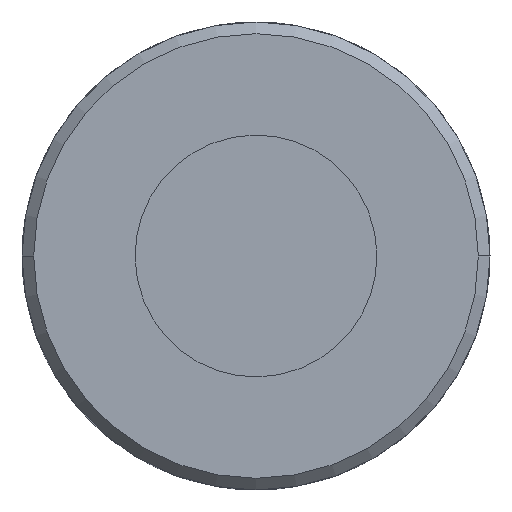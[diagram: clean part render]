
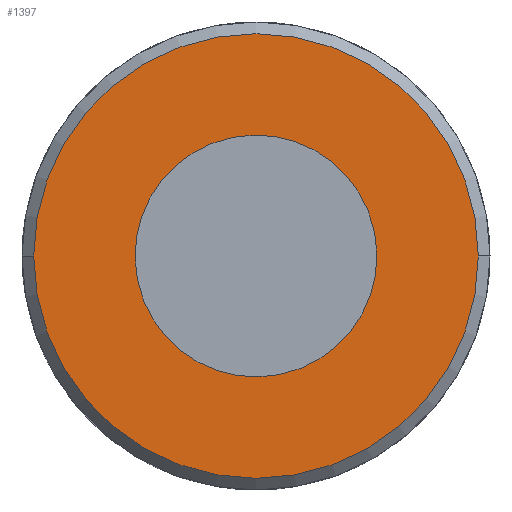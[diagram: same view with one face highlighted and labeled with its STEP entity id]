
A CAD part, left-side view. The second image highlights one B-rep face of the part: STEP entity #1397.
In plain terms, the highlighted planar face has unit normal (-1, 0, 0).
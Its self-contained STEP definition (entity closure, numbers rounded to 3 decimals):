
#63=AXIS2_PLACEMENT_3D('Circle Axis2P3D',#61,#62,$) ;
#97=AXIS2_PLACEMENT_3D('Circle Axis2P3D',#95,#96,$) ;
#1373=AXIS2_PLACEMENT_3D('Plane Axis2P3D',#1370,#1371,#1372) ;
#1377=AXIS2_PLACEMENT_3D('Circle Axis2P3D',#1375,#1376,$) ;
#1386=AXIS2_PLACEMENT_3D('Circle Axis2P3D',#1384,#1385,$) ;
#61=CARTESIAN_POINT('Axis2P3D Location',(0.,0.,0.)) ;
#65=CARTESIAN_POINT('Vertex',(0.,-1.814,-0.991)) ;
#67=CARTESIAN_POINT('Vertex',(0.,1.814,0.991)) ;
#95=CARTESIAN_POINT('Axis2P3D Location',(0.,0.,0.)) ;
#1370=CARTESIAN_POINT('Axis2P3D Location',(0.,0.,0.)) ;
#1375=CARTESIAN_POINT('Axis2P3D Location',(0.,0.,0.)) ;
#1379=CARTESIAN_POINT('Vertex',(0.,-3.8,0.)) ;
#1381=CARTESIAN_POINT('Vertex',(0.,3.8,0.)) ;
#1384=CARTESIAN_POINT('Axis2P3D Location',(0.,0.,0.)) ;
#62=DIRECTION('Axis2P3D Direction',(1.,0.,-0.)) ;
#96=DIRECTION('Axis2P3D Direction',(1.,0.,-0.)) ;
#1371=DIRECTION('Axis2P3D Direction',(1.,0.,0.)) ;
#1372=DIRECTION('Axis2P3D XDirection',(0.,1.,0.)) ;
#1376=DIRECTION('Axis2P3D Direction',(1.,0.,0.)) ;
#1385=DIRECTION('Axis2P3D Direction',(1.,0.,0.)) ;
#1390=ORIENTED_EDGE('',*,*,#1383,.F.) ;
#1391=ORIENTED_EDGE('',*,*,#1388,.F.) ;
#1394=ORIENTED_EDGE('',*,*,#69,.T.) ;
#1395=ORIENTED_EDGE('',*,*,#99,.T.) ;
#1396=FACE_BOUND('',#1393,.T.) ;
#1397=ADVANCED_FACE('PartBody',(#1392,#1396),#1374,.F.) ;
#64=CIRCLE('generated circle',#63,2.067) ;
#98=CIRCLE('generated circle',#97,2.067) ;
#1378=CIRCLE('generated circle',#1377,3.8) ;
#1387=CIRCLE('generated circle',#1386,3.8) ;
#69=EDGE_CURVE('',#66,#68,#64,.T.) ;
#99=EDGE_CURVE('',#68,#66,#98,.T.) ;
#1383=EDGE_CURVE('',#1380,#1382,#1378,.T.) ;
#1388=EDGE_CURVE('',#1382,#1380,#1387,.T.) ;
#1389=EDGE_LOOP('',(#1390,#1391)) ;
#1393=EDGE_LOOP('',(#1394,#1395)) ;
#1392=FACE_OUTER_BOUND('',#1389,.T.) ;
#1374=PLANE('Plane',#1373) ;
#66=VERTEX_POINT('',#65) ;
#68=VERTEX_POINT('',#67) ;
#1380=VERTEX_POINT('',#1379) ;
#1382=VERTEX_POINT('',#1381) ;
